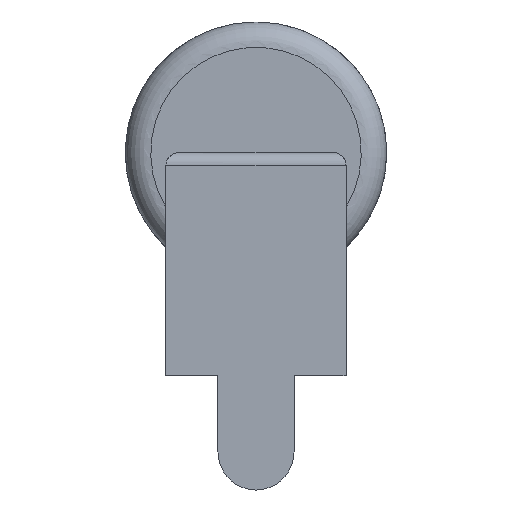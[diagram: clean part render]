
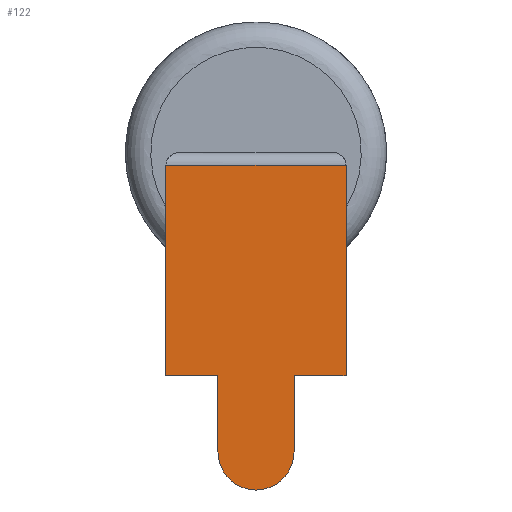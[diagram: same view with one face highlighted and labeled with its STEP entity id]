
A CAD part, front view. The second image highlights one B-rep face of the part: STEP entity #122.
In plain terms, the highlighted planar face has unit normal (0, -1, 0).
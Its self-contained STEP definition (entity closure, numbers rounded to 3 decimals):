
#54=PLANE('',#829);
#79=FACE_OUTER_BOUND('',#343,.T.);
#122=ADVANCED_FACE('',(#79),#54,.T.);
#180=LINE('',#1154,#254);
#186=LINE('',#1184,#260);
#199=LINE('',#1233,#273);
#200=LINE('',#1234,#274);
#201=LINE('',#1236,#275);
#202=LINE('',#1240,#276);
#203=LINE('',#1242,#277);
#254=VECTOR('',#928,1.);
#260=VECTOR('',#938,1.);
#273=VECTOR('',#969,1.);
#274=VECTOR('',#970,1.);
#275=VECTOR('',#971,1.);
#276=VECTOR('',#974,1.);
#277=VECTOR('',#975,1.);
#343=EDGE_LOOP('',(#446,#447,#448,#449,#450,#451,#452,#453));
#446=ORIENTED_EDGE('',*,*,#688,.F.);
#447=ORIENTED_EDGE('',*,*,#714,.T.);
#448=ORIENTED_EDGE('',*,*,#696,.F.);
#449=ORIENTED_EDGE('',*,*,#715,.F.);
#450=ORIENTED_EDGE('',*,*,#716,.F.);
#451=ORIENTED_EDGE('',*,*,#717,.F.);
#452=ORIENTED_EDGE('',*,*,#718,.F.);
#453=ORIENTED_EDGE('',*,*,#719,.F.);
#614=VERTEX_POINT('',#1153);
#615=VERTEX_POINT('',#1155);
#621=VERTEX_POINT('',#1185);
#622=VERTEX_POINT('',#1186);
#632=VERTEX_POINT('',#1235);
#633=VERTEX_POINT('',#1237);
#634=VERTEX_POINT('',#1239);
#635=VERTEX_POINT('',#1241);
#688=EDGE_CURVE('',#614,#615,#180,.T.);
#696=EDGE_CURVE('',#621,#622,#186,.T.);
#714=EDGE_CURVE('',#614,#622,#199,.T.);
#715=EDGE_CURVE('',#632,#621,#200,.T.);
#716=EDGE_CURVE('',#633,#632,#201,.T.);
#717=EDGE_CURVE('',#634,#633,#787,.T.);
#718=EDGE_CURVE('',#635,#634,#202,.T.);
#719=EDGE_CURVE('',#615,#635,#203,.T.);
#787=CIRCLE('',#828,1.5);
#828=AXIS2_PLACEMENT_3D('',#1238,#972,#973);
#829=AXIS2_PLACEMENT_3D('',#1243,#976,#977);
#928=DIRECTION('',(0.,0.,-1.));
#938=DIRECTION('',(0.,0.,1.));
#969=DIRECTION('',(-1.,0.,0.));
#970=DIRECTION('',(-1.,0.,0.));
#971=DIRECTION('',(0.,0.,1.));
#972=DIRECTION('',(0.,1.,0.));
#973=DIRECTION('',(0.,0.,-1.));
#974=DIRECTION('',(0.,0.,-1.));
#975=DIRECTION('',(-1.,0.,0.));
#976=DIRECTION('',(0.,-1.,0.));
#977=DIRECTION('',(0.,0.,1.));
#1153=CARTESIAN_POINT('',(3.55,-20.,-0.5));
#1154=CARTESIAN_POINT('',(3.55,-20.,-5.8));
#1155=CARTESIAN_POINT('',(3.55,-20.,-8.8));
#1184=CARTESIAN_POINT('',(-3.55,-20.,-6.922));
#1185=CARTESIAN_POINT('',(-3.55,-20.,-8.8));
#1186=CARTESIAN_POINT('',(-3.55,-20.,-0.5));
#1233=CARTESIAN_POINT('',(-3.05,-20.,-0.5));
#1234=CARTESIAN_POINT('',(0.,-20.,-8.8));
#1235=CARTESIAN_POINT('',(-1.5,-20.,-8.8));
#1236=CARTESIAN_POINT('',(-1.5,-20.,-11.05));
#1237=CARTESIAN_POINT('',(-1.5,-20.,-11.8));
#1238=CARTESIAN_POINT('',(0.,-20.,-11.8));
#1239=CARTESIAN_POINT('',(1.5,-20.,-11.8));
#1240=CARTESIAN_POINT('',(1.5,-20.,-5.8));
#1241=CARTESIAN_POINT('',(1.5,-20.,-8.8));
#1242=CARTESIAN_POINT('',(0.,-20.,-8.8));
#1243=CARTESIAN_POINT('',(0.,-20.,-13.3));
